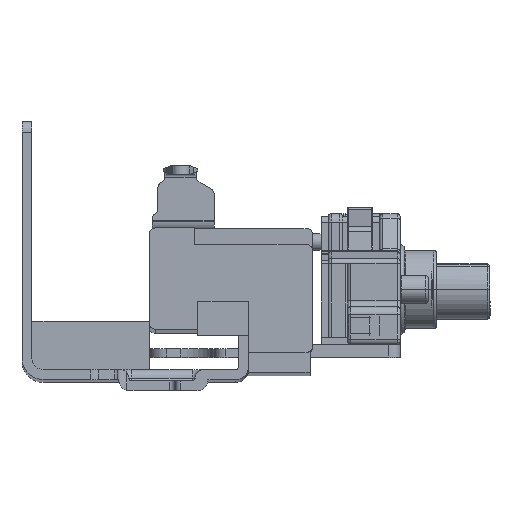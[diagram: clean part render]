
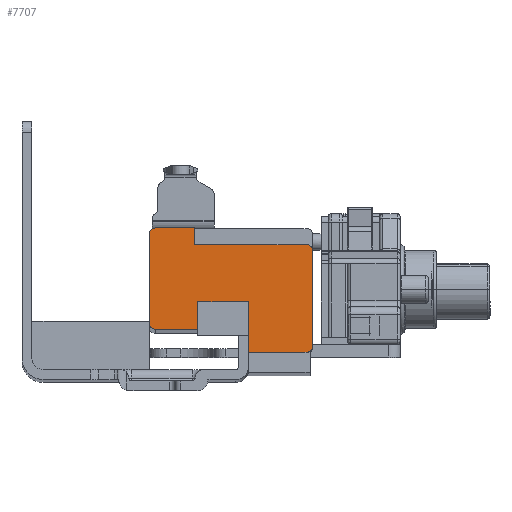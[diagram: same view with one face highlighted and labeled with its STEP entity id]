
A CAD part, top view. The second image highlights one B-rep face of the part: STEP entity #7707.
In plain terms, the highlighted planar face has unit normal (0, 0, 1).
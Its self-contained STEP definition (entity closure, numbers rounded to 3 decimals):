
#9 = VERTEX_POINT ( 'NONE', #3968 ) ;
#320 = VERTEX_POINT ( 'NONE', #6057 ) ;
#380 = EDGE_CURVE ( 'NONE', #320, #7453, #8671, .T. ) ;
#656 = ORIENTED_EDGE ( 'NONE', *, *, #10876, .F. ) ;
#664 = VERTEX_POINT ( 'NONE', #12014 ) ;
#944 = LINE ( 'NONE', #10890, #8961 ) ;
#1211 = CARTESIAN_POINT ( 'NONE',  ( 0., 0., -15.97 ) ) ;
#1216 = CARTESIAN_POINT ( 'NONE',  ( 0., -18.1, -15.97 ) ) ;
#1519 = AXIS2_PLACEMENT_3D ( 'NONE', #3879, #13698, #5304 ) ;
#1520 = CARTESIAN_POINT ( 'NONE',  ( 30.58, -18.1, -15.97 ) ) ;
#2047 = VERTEX_POINT ( 'NONE', #4416 ) ;
#2200 = CARTESIAN_POINT ( 'NONE',  ( 20.15, -9.185, -15.97 ) ) ;
#2547 = ORIENTED_EDGE ( 'NONE', *, *, #10809, .T. ) ;
#2637 = DIRECTION ( 'NONE',  ( 1., 0., 0. ) ) ;
#2696 = ORIENTED_EDGE ( 'NONE', *, *, #6817, .T. ) ;
#3221 = CARTESIAN_POINT ( 'NONE',  ( 0., -14., -15.97 ) ) ;
#3251 = ORIENTED_EDGE ( 'NONE', *, *, #15565, .T. ) ;
#3455 = DIRECTION ( 'NONE',  ( 0., -1., 0. ) ) ;
#3670 = CARTESIAN_POINT ( 'NONE',  ( 2.55, -13., -15.97 ) ) ;
#3702 = CARTESIAN_POINT ( 'NONE',  ( 20.15, -18.1, -15.97 ) ) ;
#3879 = CARTESIAN_POINT ( 'NONE',  ( 3.55, -13., -15.97 ) ) ;
#3928 = AXIS2_PLACEMENT_3D ( 'NONE', #5095, #14887, #6531 ) ;
#3968 = CARTESIAN_POINT ( 'NONE',  ( 3.55, -14., -15.97 ) ) ;
#4024 = DIRECTION ( 'NONE',  ( -1., 0., 0. ) ) ;
#4416 = CARTESIAN_POINT ( 'NONE',  ( 30.61, 1., -15.97 ) ) ;
#4990 = LINE ( 'NONE', #1216, #8322 ) ;
#5095 = CARTESIAN_POINT ( 'NONE',  ( 30.61, 0.03, -15.97 ) ) ;
#5269 = ORIENTED_EDGE ( 'NONE', *, *, #7945, .T. ) ;
#5304 = DIRECTION ( 'NONE',  ( 1., 0., 0. ) ) ;
#5976 = CARTESIAN_POINT ( 'NONE',  ( 31.58, -17.1, -15.97 ) ) ;
#6057 = CARTESIAN_POINT ( 'NONE',  ( 10.55, 4., -15.97 ) ) ;
#6074 = DIRECTION ( 'NONE',  ( 0., -1., 0. ) ) ;
#6409 = VERTEX_POINT ( 'NONE', #3702 ) ;
#6508 = LINE ( 'NONE', #15906, #13943 ) ;
#6531 = DIRECTION ( 'NONE',  ( 1., 0., 0. ) ) ;
#6647 = VERTEX_POINT ( 'NONE', #1520 ) ;
#6669 = EDGE_CURVE ( 'NONE', #664, #9429, #17449, .T. ) ;
#6722 = DIRECTION ( 'NONE',  ( 0., 0., 1. ) ) ;
#6817 = EDGE_CURVE ( 'NONE', #6647, #7867, #8342, .T. ) ;
#6878 = LINE ( 'NONE', #8253, #17967 ) ;
#7024 = ORIENTED_EDGE ( 'NONE', *, *, #8151, .F. ) ;
#7453 = VERTEX_POINT ( 'NONE', #14675 ) ;
#7569 = DIRECTION ( 'NONE',  ( 0., 1., 0. ) ) ;
#7661 = DIRECTION ( 'NONE',  ( 0., 0., 1. ) ) ;
#7670 = EDGE_LOOP ( 'NONE', ( #15482, #12817, #11038, #2547, #8079, #2696, #656, #3251, #7024, #11321, #16600, #5269, #14108, #9847 ) ) ;
#7707 = ADVANCED_FACE ( 'NONE', ( #10485 ), #9721, .T. ) ;
#7867 = VERTEX_POINT ( 'NONE', #5976 ) ;
#7945 = EDGE_CURVE ( 'NONE', #7453, #14813, #14807, .T. ) ;
#8079 = ORIENTED_EDGE ( 'NONE', *, *, #12640, .F. ) ;
#8151 = EDGE_CURVE ( 'NONE', #9404, #2047, #944, .T. ) ;
#8155 = DIRECTION ( 'NONE',  ( 1., 0., 0. ) ) ;
#8253 = CARTESIAN_POINT ( 'NONE',  ( 18.38, -9.185, -15.97 ) ) ;
#8322 = VECTOR ( 'NONE', #13771, 1000. ) ;
#8342 = CIRCLE ( 'NONE', #17308, 1. ) ;
#8396 = CARTESIAN_POINT ( 'NONE',  ( 2.55, 0., -15.97 ) ) ;
#8472 = EDGE_CURVE ( 'NONE', #9404, #320, #6508, .T. ) ;
#8566 = AXIS2_PLACEMENT_3D ( 'NONE', #1211, #11104, #2637 ) ;
#8656 = CARTESIAN_POINT ( 'NONE',  ( 10.55, 1., -15.97 ) ) ;
#8671 = LINE ( 'NONE', #9980, #15622 ) ;
#8782 = VECTOR ( 'NONE', #3455, 1000. ) ;
#8882 = DIRECTION ( 'NONE',  ( -1., 0., 0. ) ) ;
#8961 = VECTOR ( 'NONE', #8155, 1000. ) ;
#9404 = VERTEX_POINT ( 'NONE', #8656 ) ;
#9429 = VERTEX_POINT ( 'NONE', #17012 ) ;
#9721 = PLANE ( 'NONE',  #8566 ) ;
#9805 = DIRECTION ( 'NONE',  ( 0., -1., 0. ) ) ;
#9847 = ORIENTED_EDGE ( 'NONE', *, *, #9997, .T. ) ;
#9980 = CARTESIAN_POINT ( 'NONE',  ( 8.35, 4., -15.97 ) ) ;
#9997 = EDGE_CURVE ( 'NONE', #17458, #9, #17684, .T. ) ;
#10090 = AXIS2_PLACEMENT_3D ( 'NONE', #15983, #7661, #17354 ) ;
#10108 = VECTOR ( 'NONE', #16859, 1000. ) ;
#10485 = FACE_OUTER_BOUND ( 'NONE', #7670, .T. ) ;
#10506 = CARTESIAN_POINT ( 'NONE',  ( 31.58, 0., -15.97 ) ) ;
#10809 = EDGE_CURVE ( 'NONE', #15925, #6409, #13777, .T. ) ;
#10837 = CARTESIAN_POINT ( 'NONE',  ( 2.55, 3., -15.97 ) ) ;
#10876 = EDGE_CURVE ( 'NONE', #14281, #7867, #12472, .T. ) ;
#10890 = CARTESIAN_POINT ( 'NONE',  ( 0.75, 1., -15.97 ) ) ;
#11038 = ORIENTED_EDGE ( 'NONE', *, *, #15405, .F. ) ;
#11104 = DIRECTION ( 'NONE',  ( 0., 0., 1. ) ) ;
#11321 = ORIENTED_EDGE ( 'NONE', *, *, #8472, .T. ) ;
#11343 = VECTOR ( 'NONE', #9805, 1000. ) ;
#11660 = DIRECTION ( 'NONE',  ( 1., 0., 0. ) ) ;
#11759 = LINE ( 'NONE', #8396, #11343 ) ;
#12014 = CARTESIAN_POINT ( 'NONE',  ( 11.15, -14., -15.97 ) ) ;
#12472 = LINE ( 'NONE', #10506, #8782 ) ;
#12640 = EDGE_CURVE ( 'NONE', #6647, #6409, #4990, .T. ) ;
#12817 = ORIENTED_EDGE ( 'NONE', *, *, #6669, .T. ) ;
#13113 = CARTESIAN_POINT ( 'NONE',  ( 20.15, 0., -15.97 ) ) ;
#13698 = DIRECTION ( 'NONE',  ( 0., 0., 1. ) ) ;
#13771 = DIRECTION ( 'NONE',  ( -1., 0., 0. ) ) ;
#13777 = LINE ( 'NONE', #13113, #17016 ) ;
#13943 = VECTOR ( 'NONE', #7569, 1000. ) ;
#14108 = ORIENTED_EDGE ( 'NONE', *, *, #17567, .T. ) ;
#14191 = CARTESIAN_POINT ( 'NONE',  ( 11.15, 0., -15.97 ) ) ;
#14281 = VERTEX_POINT ( 'NONE', #14861 ) ;
#14675 = CARTESIAN_POINT ( 'NONE',  ( 3.55, 4., -15.97 ) ) ;
#14807 = CIRCLE ( 'NONE', #10090, 1. ) ;
#14813 = VERTEX_POINT ( 'NONE', #10837 ) ;
#14861 = CARTESIAN_POINT ( 'NONE',  ( 31.58, 0.03, -15.97 ) ) ;
#14865 = VECTOR ( 'NONE', #11660, 1000. ) ;
#14887 = DIRECTION ( 'NONE',  ( 0., 0., 1. ) ) ;
#15084 = CARTESIAN_POINT ( 'NONE',  ( 30.58, -17.1, -15.97 ) ) ;
#15110 = CIRCLE ( 'NONE', #3928, 0.97 ) ;
#15319 = LINE ( 'NONE', #3221, #14865 ) ;
#15405 = EDGE_CURVE ( 'NONE', #15925, #9429, #6878, .T. ) ;
#15482 = ORIENTED_EDGE ( 'NONE', *, *, #15790, .T. ) ;
#15565 = EDGE_CURVE ( 'NONE', #14281, #2047, #15110, .T. ) ;
#15622 = VECTOR ( 'NONE', #8882, 1000. ) ;
#15790 = EDGE_CURVE ( 'NONE', #9, #664, #15319, .T. ) ;
#15906 = CARTESIAN_POINT ( 'NONE',  ( 10.55, 1., -15.97 ) ) ;
#15925 = VERTEX_POINT ( 'NONE', #2200 ) ;
#15983 = CARTESIAN_POINT ( 'NONE',  ( 3.55, 3., -15.97 ) ) ;
#16463 = DIRECTION ( 'NONE',  ( 1., 0., 0. ) ) ;
#16600 = ORIENTED_EDGE ( 'NONE', *, *, #380, .T. ) ;
#16859 = DIRECTION ( 'NONE',  ( 0., 1., 0. ) ) ;
#17012 = CARTESIAN_POINT ( 'NONE',  ( 11.15, -9.185, -15.97 ) ) ;
#17016 = VECTOR ( 'NONE', #6074, 1000. ) ;
#17308 = AXIS2_PLACEMENT_3D ( 'NONE', #15084, #6722, #16463 ) ;
#17354 = DIRECTION ( 'NONE',  ( 1., 0., 0. ) ) ;
#17449 = LINE ( 'NONE', #14191, #10108 ) ;
#17458 = VERTEX_POINT ( 'NONE', #3670 ) ;
#17567 = EDGE_CURVE ( 'NONE', #14813, #17458, #11759, .T. ) ;
#17684 = CIRCLE ( 'NONE', #1519, 1. ) ;
#17967 = VECTOR ( 'NONE', #4024, 1000. ) ;
